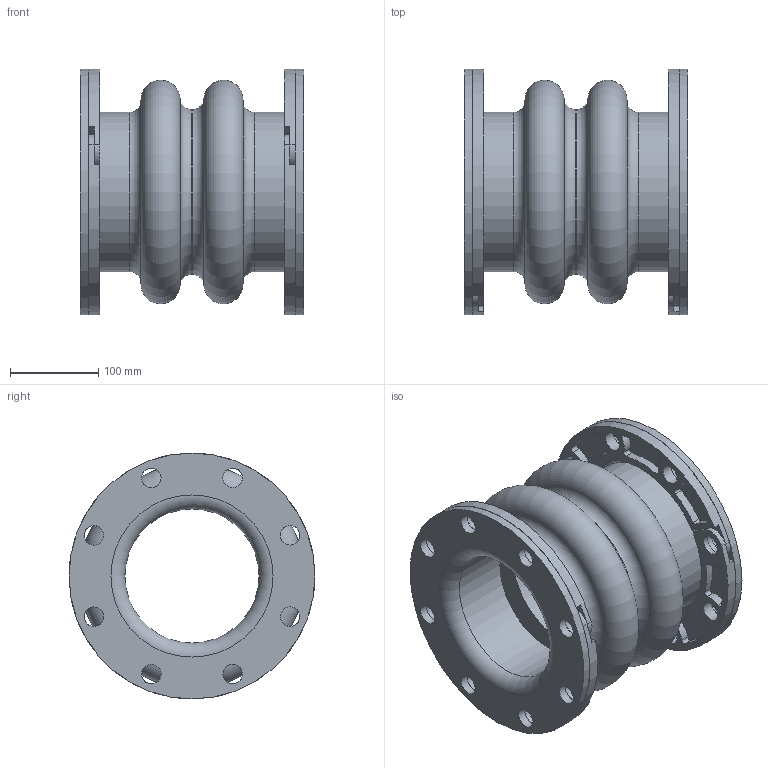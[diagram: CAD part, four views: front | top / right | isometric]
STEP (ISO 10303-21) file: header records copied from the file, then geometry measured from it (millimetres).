
FILE_DESCRIPTION(/* description */ (''),/* implementation_level */ '2;1');
FILE_NAME(/* name */ 'C:\001_Work\Designs\Mercer2014\MQInventor2014\RajR\500 Style\502\STP\502 6IDx10FF.stp',/* time_stamp */ '2016-03-16T14:37:07-04:00',/* author */ ('mquog'),/* organization */ (''),/* preprocessor_version */ 'ST-DEVELOPER v15.2',/* originating_system */ 'Autodesk Inventor 2014',/* authorisation */ '');
FILE_SCHEMA (('AUTOMOTIVE_DESIGN { 1 0 10303 214 3 1 1 }'));
Length unit declared in the file: centimetre
Products named in the file (1): 502 6IDx10FF
Bounding box: 254 x 279.4 x 279.4 mm (x, y, z)
Volume: 4155587 mm3; surface area: 776690.7 mm2
Topology: 3 solids, 3 shells, 276 faces, 724 edges, 468 vertices
Faces by surface type: cylinder 188, plane 68, torus 12, cone 8
Full cylindrical faces by diameter (mm): 22.225 x36, 152.4 x3, 180.975 x2, 187.325 x1, 279.4 x2
Entity records: 8784 total; most frequent: DIRECTION 1642, CARTESIAN_POINT 1397, ORIENTED_EDGE 1312, AXIS2_PLACEMENT_3D 709, EDGE_CURVE 656, VERTEX_POINT 464, CIRCLE 432, EDGE_LOOP 424
